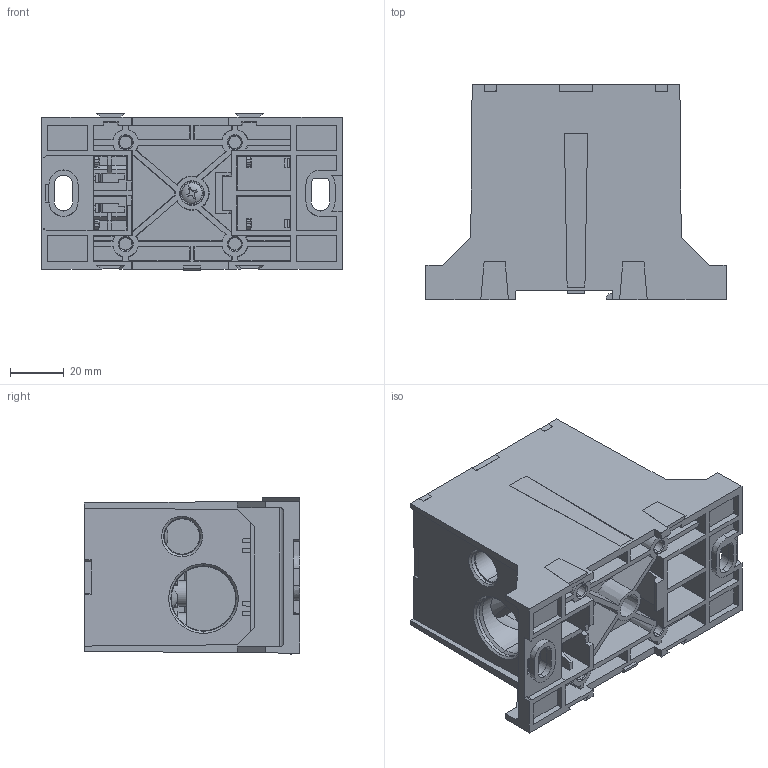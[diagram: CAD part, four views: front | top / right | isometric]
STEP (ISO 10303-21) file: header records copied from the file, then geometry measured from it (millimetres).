
FILE_DESCRIPTION (( 'STEP AP214' ), '1' );
FILE_NAME ('EPBCP74.STEP', '2013-01-07T19:06:07', ( 'RBC' ), ( 'RBC' ), 'SwSTEP 2.0', 'SolidWorks 2011', '' );
FILE_SCHEMA (( 'AUTOMOTIVE_DESIGN' ));
Length unit declared in the file: inch
Products named in the file (1): EPBCP74
Bounding box: 111.44 x 79.88 x 58.17 mm (x, y, z)
Volume: 169922.3 mm3; surface area: 116660.1 mm2
Topology: 16 solids, 16 shells, 2022 faces, 5421 edges, 3463 vertices
Faces by surface type: plane 1193, cylinder 403, cone 285, torus 96, bspline 27, sphere 18
Entity records: 133742 total; most frequent: CARTESIAN_POINT 57415, ORIENTED_EDGE 10838, DIRECTION 9678, EDGE_CURVE 5419, LINE 3622, VECTOR 3622, VERTEX_POINT 3463, AXIS2_PLACEMENT_3D 3028
